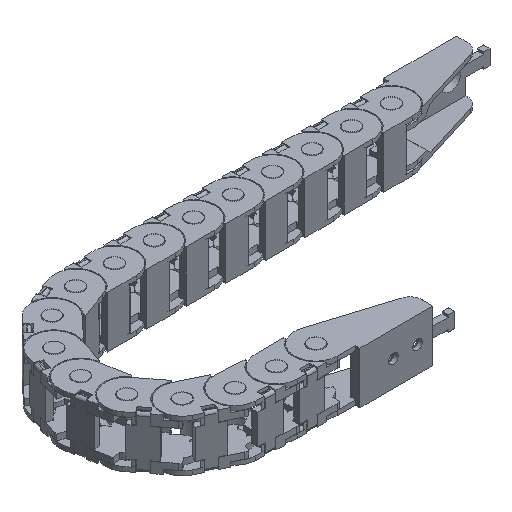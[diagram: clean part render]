
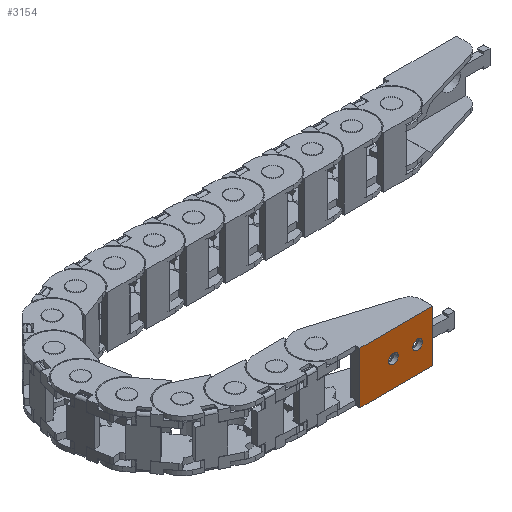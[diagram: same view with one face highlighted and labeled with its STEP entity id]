
A CAD part, isometric view. The second image highlights one B-rep face of the part: STEP entity #3154.
In plain terms, the highlighted planar face has unit normal (0, -1, 0).
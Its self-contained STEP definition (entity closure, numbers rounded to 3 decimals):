
#490=FACE_BOUND('',#6930,.T.);
#491=FACE_BOUND('',#6931,.T.);
#492=FACE_BOUND('',#6932,.T.);
#1787=CIRCLE('',#29203,1.6);
#1788=CIRCLE('',#29204,1.6);
#3154=ADVANCED_FACE('',(#490,#491,#492),#4160,.T.);
#4160=PLANE('',#29205);
#6930=EDGE_LOOP('',(#14309));
#6931=EDGE_LOOP('',(#14310,#14311,#14312,#14313));
#6932=EDGE_LOOP('',(#14314));
#14309=ORIENTED_EDGE('',*,*,#20939,.F.);
#14310=ORIENTED_EDGE('',*,*,#20940,.T.);
#14311=ORIENTED_EDGE('',*,*,#20941,.F.);
#14312=ORIENTED_EDGE('',*,*,#20942,.F.);
#14313=ORIENTED_EDGE('',*,*,#20943,.F.);
#14314=ORIENTED_EDGE('',*,*,#20944,.T.);
#17169=VERTEX_POINT('',#44289);
#17170=VERTEX_POINT('',#44291);
#17171=VERTEX_POINT('',#44292);
#17172=VERTEX_POINT('',#44294);
#17173=VERTEX_POINT('',#44296);
#17174=VERTEX_POINT('',#44299);
#20939=EDGE_CURVE('',#17169,#17169,#1787,.T.);
#20940=EDGE_CURVE('',#17170,#17171,#23935,.T.);
#20941=EDGE_CURVE('',#17172,#17171,#23936,.T.);
#20942=EDGE_CURVE('',#17173,#17172,#23937,.T.);
#20943=EDGE_CURVE('',#17170,#17173,#23938,.T.);
#20944=EDGE_CURVE('',#17174,#17174,#1788,.T.);
#23935=LINE('',#44290,#26893);
#23936=LINE('',#44293,#26894);
#23937=LINE('',#44295,#26895);
#23938=LINE('',#44297,#26896);
#26893=VECTOR('',#36460,1.);
#26894=VECTOR('',#36461,1.);
#26895=VECTOR('',#36462,1.);
#26896=VECTOR('',#36463,1.);
#29203=AXIS2_PLACEMENT_3D('',#44288,#36458,#36459);
#29204=AXIS2_PLACEMENT_3D('',#44298,#36464,#36465);
#29205=AXIS2_PLACEMENT_3D('',#44300,#36466,#36467);
#36458=DIRECTION('',(0.,-1.,0.));
#36459=DIRECTION('',(0.,0.,-1.));
#36460=DIRECTION('',(-1.,0.,0.));
#36461=DIRECTION('',(0.,0.,1.));
#36462=DIRECTION('',(-1.,0.,0.));
#36463=DIRECTION('',(0.,0.,-1.));
#36464=DIRECTION('',(0.,1.,0.));
#36465=DIRECTION('',(0.,0.,-1.));
#36466=DIRECTION('',(0.,-1.,0.));
#36467=DIRECTION('',(0.,0.,-1.));
#44288=CARTESIAN_POINT('',(45.,-26.5,0.));
#44289=CARTESIAN_POINT('',(45.,-26.5,-1.6));
#44290=CARTESIAN_POINT('',(50.,-26.5,8.5));
#44291=CARTESIAN_POINT('',(50.,-26.5,8.5));
#44292=CARTESIAN_POINT('',(26.,-26.5,8.5));
#44293=CARTESIAN_POINT('',(26.,-26.5,-8.5));
#44294=CARTESIAN_POINT('',(26.,-26.5,-8.5));
#44295=CARTESIAN_POINT('',(50.,-26.5,-8.5));
#44296=CARTESIAN_POINT('',(50.,-26.5,-8.5));
#44297=CARTESIAN_POINT('',(50.,-26.5,8.5));
#44298=CARTESIAN_POINT('',(37.,-26.5,0.));
#44299=CARTESIAN_POINT('',(37.,-26.5,-1.6));
#44300=CARTESIAN_POINT('',(50.,-26.5,0.));
